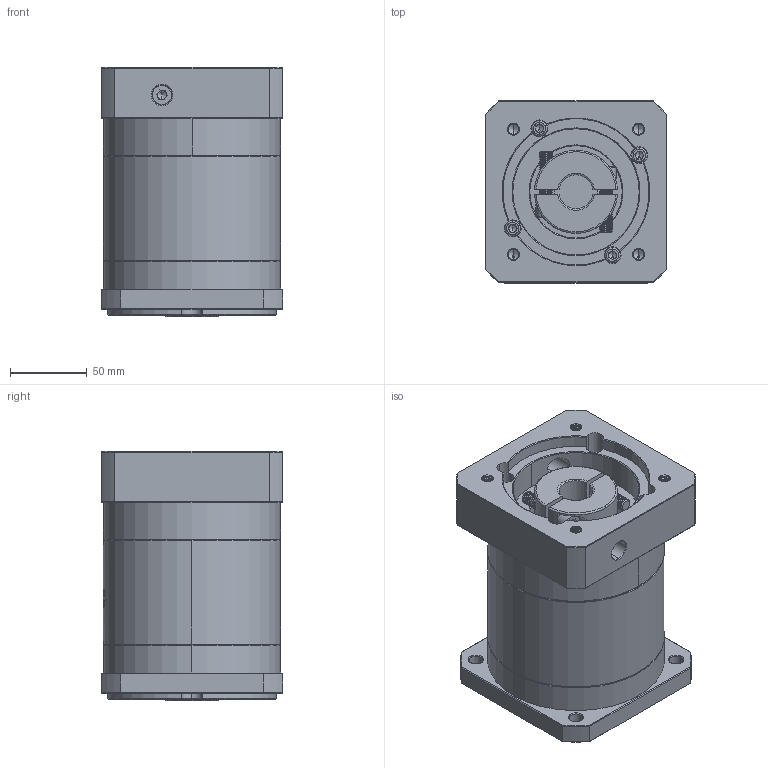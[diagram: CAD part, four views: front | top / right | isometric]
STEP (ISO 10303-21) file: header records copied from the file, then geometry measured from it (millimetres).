
FILE_DESCRIPTION (( 'STEP AP214' ), '1' );
FILE_NAME ('ZF120A-K25-L2-P2-22-95-115-M8.step', '2023-08-27T04:51:35', ( '' ), ( '' ), 'SwSTEP 2.0', 'SolidWorks 2016', '' );
FILE_SCHEMA (( 'AUTOMOTIVE_DESIGN' ));
Length unit declared in the file: millimetre
Products named in the file (1): ZF120A-K25-L2-P2-22-95-115-M8
Bounding box: 118 x 118 x 162 mm (x, y, z)
Volume: 1610129.2 mm3; surface area: 167742.9 mm2
Topology: 6 solids, 6 shells, 2178 faces, 5798 edges, 3721 vertices
Faces by surface type: plane 1027, bspline 430, cylinder 396, cone 325
Entity records: 117879 total; most frequent: CARTESIAN_POINT 45020, ORIENTED_EDGE 11540, DIRECTION 8352, EDGE_CURVE 5770, VERTEX_POINT 3721, LINE 3046, VECTOR 3046, AXIS2_PLACEMENT_3D 2653
